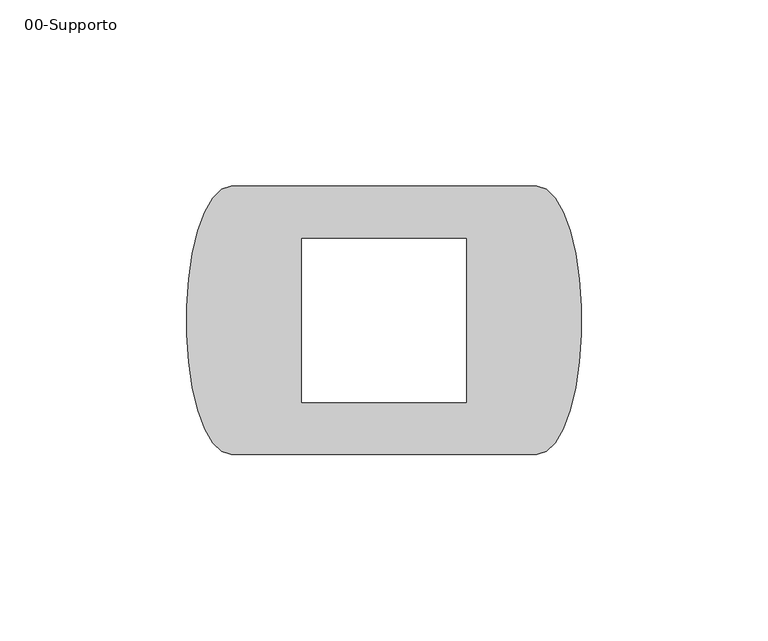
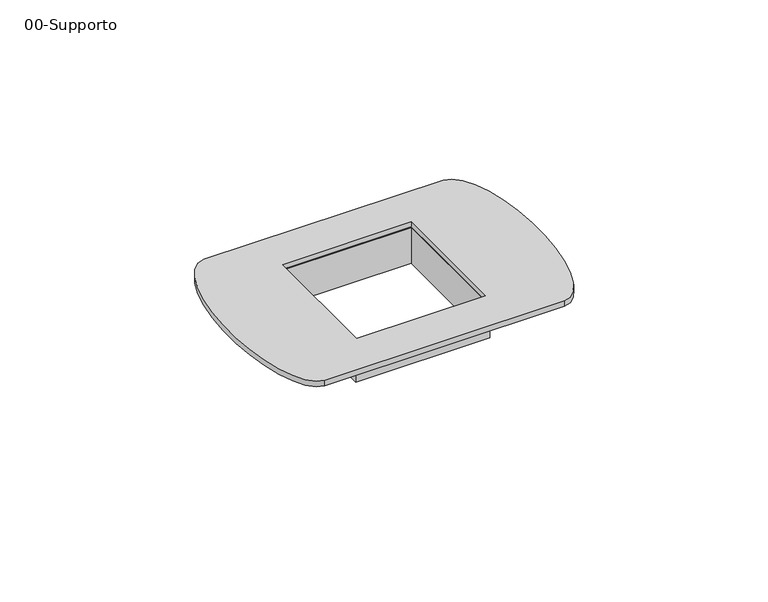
"""IFC4 building model written with IfcOpenShell, lengths in millimetres: proxy geometry, 00-Supporto : Supporto 2 moduli su scatola 3."""

from ifc_helpers import new_model, si_unit, point, frame, origin, place, context, project, spatial, polyline, ellipse_curve, trimmed, outline, extrude, source, transform, mapped, element, save
from ifc_brep_helpers import plane_surface, extruded_surface, advanced_brep


def proxy_00_supporto_2b4d3d83(model_context):
    return source(origin(), model_context, "Body", "SolidModel", [
        extrude(outline(polyline([(23.0, -23.0), (-23.0, -23.0), (-23.0, 23.0), (23.0, 23.0), (23.0, -23.0)]), holes=[polyline([(-22.0, 22.0), (-22.0, -22.0), (22.0, -22.0), (22.0, 22.0), (-22.0, 22.0)])]), frame((0.0, 0.0, -13.0), z_axis=(0.0, 0.0, 1.0), x_axis=(1.0, 0.0, 0.0)), (0.0, 0.0, 1.0), 13.0),
        advanced_brep(
        [(41.0, 36.0, 2.0), (-41.0, 36.0, 2.0), (-41.0, -36.0, 2.0), (41.0, -36.0, 2.0), (-22.0, -22.0, 2.0), (-22.0, 22.0, 2.0), (22.0, 22.0, 2.0), (22.0, -22.0, 2.0), (41.0, 36.0, 0.0), (41.0, -36.0, 0.0), (-41.0, -36.0, 0.0), (-41.0, 36.0, 0.0), (-22.0, -22.0, 0.0), (22.0, -22.0, 0.0), (22.0, 22.0, 0.0), (-22.0, 22.0, 0.0)],
        [
            (0, 1),
            (1, 2, ellipse_curve(frame((-41.0, 0.0, 2.0), z_axis=(0.0, 0.0, 1.0), x_axis=(0.0, -1.0, 0.0)), 36.0, 12.0)),
            (2, 3),
            (3, 0, ellipse_curve(frame((41.0, 0.0, 2.0), z_axis=(0.0, 0.0, 1.0), x_axis=(0.0, 1.0, 0.0)), 36.0, 12.0)),
            (4, 5),
            (5, 6),
            (6, 7),
            (7, 4),
            (8, 9, ellipse_curve(frame((41.0, 0.0, 0.0), z_axis=(0.0, 0.0, -1.0), x_axis=(0.0, 1.0, 0.0)), 36.0, 12.0)),
            (9, 10),
            (10, 11, ellipse_curve(frame((-41.0, 0.0, 0.0), z_axis=(0.0, 0.0, -1.0), x_axis=(0.0, -1.0, 0.0)), 36.0, 12.0)),
            (11, 8),
            (12, 13),
            (13, 14),
            (14, 15),
            (15, 12),
            (0, 8),
            (11, 1),
            (2, 10),
            (9, 3),
            (4, 12),
            (15, 5),
            (14, 6),
            (13, 7),
        ],
        [
            plane_surface(frame((-41.0, 36.0, 2.0), z_axis=(0.0, 0.0, 1.0), x_axis=(-1.0, 0.0, 0.0))),
            plane_surface(frame((-41.0, 36.0, 0.0), z_axis=(0.0, 0.0, -1.0), x_axis=(1.0, 0.0, 0.0))),
            plane_surface(frame((41.0, 36.0, 2.0), z_axis=(0.0, 1.0, 0.0), x_axis=(0.0, 0.0, -1.0))),
            plane_surface(frame((-41.0, -36.0, 2.0), z_axis=(0.0, -1.0, 0.0), x_axis=(0.0, 0.0, -1.0))),
            plane_surface(frame((-22.0, -22.0, 2.0), z_axis=(1.0, 0.0, 0.0), x_axis=(0.0, 0.0, -1.0))),
            plane_surface(frame((-22.0, 22.0, 2.0), z_axis=(0.0, -1.0, 0.0), x_axis=(0.0, 0.0, -1.0))),
            plane_surface(frame((22.0, 22.0, 2.0), z_axis=(-1.0, 0.0, 0.0), x_axis=(0.0, 0.0, -1.0))),
            plane_surface(frame((22.0, -22.0, 2.0), z_axis=(0.0, 1.0, 0.0), x_axis=(0.0, 0.0, -1.0))),
            extruded_surface(trimmed(ellipse_curve(frame((41.0, 0.0, -2.0), z_axis=(0.0, 0.0, 1.0), x_axis=(0.0, 1.0, 0.0)), 36.0, 12.0), [point((41.0, -36.0, -2.0))], [point((41.0, 36.0, -2.0))], True, "CARTESIAN"), (0.0, 0.0, 2.0), 2.0),
            extruded_surface(trimmed(ellipse_curve(frame((-41.0, 0.0, -2.0), z_axis=(0.0, 0.0, 1.0), x_axis=(0.0, -1.0, 0.0)), 36.0, 12.0), [point((-41.0, 36.0, -2.0))], [point((-41.0, -36.0, -2.0))], True, "CARTESIAN"), (0.0, 0.0, 2.0), 2.0),
        ],
        [
            (0, [[1, 2, 3, 4], [5, 6, 7, 8]]),
            (1, [[9, 10, 11, 12], [13, 14, 15, 16]]),
            (2, [[-1, 17, -12, 18]]),
            (3, [[-3, 19, -10, 20]]),
            (4, [[-5, 21, -16, 22]]),
            (5, [[-6, -22, -15, 23]]),
            (6, [[-7, -23, -14, 24]]),
            (7, [[-8, -24, -13, -21]]),
            (8, [[-4, -20, -9, -17]]),
            (9, [[-2, -18, -11, -19]]),
        ],
    ),
    ])


if __name__ == "__main__":
    model = new_model("IFC4")
    model_context = context("Model", 3, world=origin())
    ifc_project = project(units=[si_unit("LENGTHUNIT", "METRE", prefix="MILLI")], contexts=[model_context])
    site = spatial("IfcSite", under=ifc_project)
    building = spatial("IfcBuilding", under=site)
    placement = place(None, origin())
    proxy_00_supporto_shape = proxy_00_supporto_2b4d3d83(model_context)
    element("IfcBuildingElementProxy", 1, Name="00-Supporto : Supporto 2 moduli su scatola 3", ObjectType="00-Supporto : Supporto 2 moduli su scatola 3", at=placement, inside=building, context=model_context, shape_type="MappedRepresentation", body=[
        mapped(proxy_00_supporto_shape, transform((0.0, 0.0, 0.0), x_axis=(1.0, 0.0, 0.0), y_axis=(0.0, 1.0, 0.0), z_axis=(0.0, 0.0, 1.0))),
    ])
    save(model, "model.ifc")
